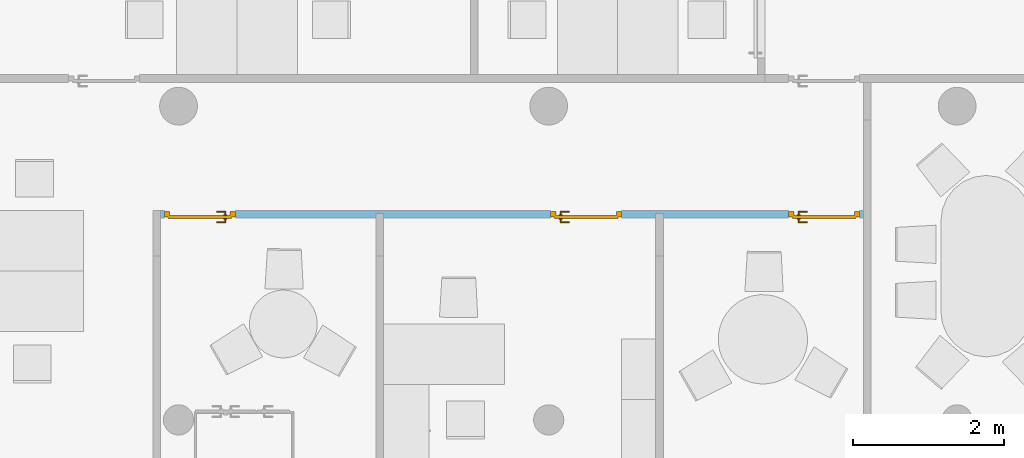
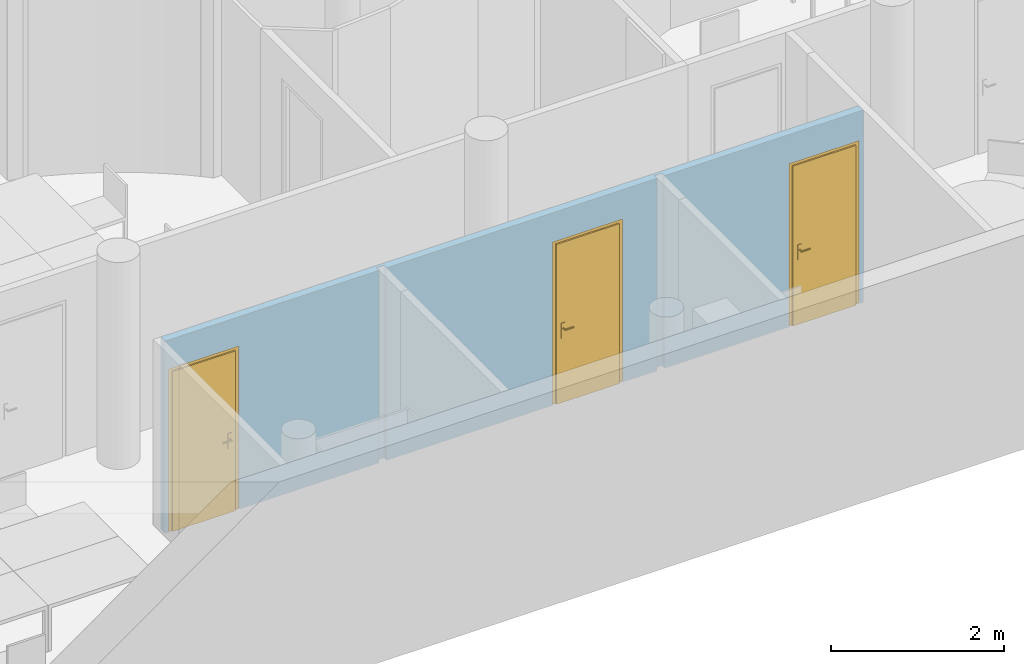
"""IFC4 building model written with IfcOpenShell, lengths in metres."""

from ifc_helpers import new_model, entity, si_unit, converted_unit, derived_unit, frame, origin, origin_with_axes, place, context, subcontext, project, spatial, polyline, outline, extrude, faceted_brep, source, transform, mapped, material, layer, layer_set, layer_usage, element, fill, save


model = new_model("IFC4")

# Units and contexts
model_context = context("Model", 3, precision=1e-05, world=origin())
body_context = subcontext(model_context, "Body", "Model", "MODEL_VIEW")
ifc_project = project(units=[si_unit("LENGTHUNIT", "METRE"), si_unit("AREAUNIT", "SQUARE_METRE"), si_unit("VOLUMEUNIT", "CUBIC_METRE"), si_unit("MASSUNIT", "GRAM", prefix="KILO"), converted_unit("PLANEANGLEUNIT", "DEGREE", entity("IfcPlaneAngleMeasure", 0.0174532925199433), si_unit("PLANEANGLEUNIT", "RADIAN"), dimensions=[0, 0, 0, 0, 0, 0, 0]), derived_unit("THERMALTRANSMITTANCEUNIT", [(si_unit("POWERUNIT", "WATT"), 1), (si_unit("THERMODYNAMICTEMPERATUREUNIT", "KELVIN"), -1), (si_unit("LENGTHUNIT", "METRE"), -2)]), derived_unit("VOLUMETRICFLOWRATEUNIT", [(si_unit("LENGTHUNIT", "METRE"), 3), (converted_unit("TIMEUNIT", "hour", entity("IfcTimeMeasure", 3600.0), si_unit("TIMEUNIT", "SECOND"), dimensions=[0, 0, 1, 0, 0, 0, 0]), -1), (si_unit("LENGTHUNIT", "METRE"), -1)])], contexts=[model_context])

# Building, storeys
building_placement = place(None, origin())
building = spatial("IfcBuilding", under=ifc_project, at=building_placement, Name="HABITATGE PLURIFAMILIAR", CompositionType="ELEMENT")
storey_1_placement = place(building_placement, frame((0.0, 0.0, 9.26)))
storey_1 = spatial("IfcBuildingStorey", under=building, at=storey_1_placement, Name="PLANTA SEGONA", CompositionType="ELEMENT", Elevation=9.26)
storey_2_placement = place(storey_1_placement, frame((0.0, 0.0, 6.25)))
storey_2 = spatial("IfcBuildingStorey", under=storey_1, at=storey_2_placement, Name="NOU", CompositionType="PARTIAL")

# Wall, openings, doors
ifc_material = material()
ifc_layer = layer(ifc_material, 0.1)
ifc_layer_set = layer_set([ifc_layer])
ifc_layer_usage = layer_usage(ifc_layer_set, "AXIS2", "POSITIVE", 0.0)
wall_placement = place(storey_2_placement, frame((414.897122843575, 16.4185729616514, -6.35), z_axis=(0.0, 0.0, 1.0), x_axis=(-1.0, 0.0, 0.0)))
wall = element("IfcWall", 1, at=wall_placement, inside=storey_2, material=ifc_layer_usage, Name="Mampara P2", context=body_context, shape_type="SweptSolid", body=[
    extrude(outline(polyline([(-9.29780990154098, -0.1), (0.0, -0.1), (0.0, 0.0), (-2.85, 0.0), (-2.85, -0.0599999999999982), (-2.95, -0.0599999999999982), (-2.95, 0.0), (-6.55000000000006, 0.0), (-6.55000000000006, -0.0600000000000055), (-6.65000000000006, -0.0600000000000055), (-6.65000000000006, 0.0), (-9.29780990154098, 0.0), (-9.29780990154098, -0.1)])), frame((9.29780990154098, 0.1, 0.0), z_axis=(0.0, 0.0, 1.0), x_axis=(1.0, 0.0, 0.0)), (0.0, 0.0, 1.0), 2.71),
])
opening_1_placement = place(wall_placement, frame((0.05, 0.0, 0.0), z_axis=(0.0, 1.0, 0.0), x_axis=(0.0, 0.0, 1.0)))
opening_1 = element("IfcOpeningElement", 2, at=opening_1_placement, cuts=wall, Name="Vano puerta", ObjectType="Opening", context=body_context, shape_type="SweptSolid", body=[
    extrude(outline(polyline([(2.3, 0.94), (2.3, 0.0), (0.0, 0.0), (0.0, 0.94), (2.3, 0.94)])), origin_with_axes(), (0.0, 0.0, 1.0), 0.0999999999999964),
])
opening_2_placement = place(wall_placement, frame((3.19780990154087, 0.0, 0.0), z_axis=(0.0, 1.0, 0.0), x_axis=(0.0, 0.0, 1.0)))
opening_2 = element("IfcOpeningElement", 3, at=opening_2_placement, cuts=wall, Name="Vano puerta", ObjectType="Opening", context=body_context, shape_type="SweptSolid", body=[
    extrude(outline(polyline([(2.3, 0.94), (2.3, 0.0), (0.0, 0.0), (0.0, 0.94), (2.3, 0.94)])), origin_with_axes(), (0.0, 0.0, 1.0), 0.0999999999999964),
])
opening_3_placement = place(wall_placement, frame((8.30780990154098, 0.0, 0.0), z_axis=(0.0, 1.0, 0.0), x_axis=(0.0, 0.0, 1.0)))
opening_3 = element("IfcOpeningElement", 4, at=opening_3_placement, cuts=wall, Name="Vano puerta", ObjectType="Opening", context=body_context, shape_type="SweptSolid", body=[
    extrude(outline(polyline([(2.3, 0.94), (2.3, 0.0), (0.0, 0.0), (0.0, 0.94), (2.3, 0.94)])), origin_with_axes(), (0.0, 0.0, 1.0), 0.1),
])
shared_shape_1 = source(origin_with_axes(), body_context, "Body", "Brep", [
    faceted_brep([(0.94, 0.0700000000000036, 2.3), (0.87, 0.0700000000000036, 2.3), (0.87, 0.0700000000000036, 0.0), (0.94, 0.0700000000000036, 0.0), (0.94, 0.0, 0.0), (0.87, 0.0, 0.0), (0.87, 0.0, 2.3), (0.94, 0.0, 2.3)], [[[0, 1, 2, 3]], [[4, 5, 6, 7]], [[3, 4, 7, 0]], [[2, 5, 4, 3]], [[1, 6, 5, 2]], [[0, 7, 6, 1]]], orient=[[False], [False], [False], [False], [False], [False]]),
    faceted_brep([(0.07, 0.0700000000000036, 2.3), (0.0, 0.0700000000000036, 2.3), (0.0, 0.0700000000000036, 0.0), (0.07, 0.0700000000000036, 0.0), (0.07, 0.0, 0.0), (0.0, 0.0, 0.0), (0.0, 0.0, 2.3), (0.07, 0.0, 2.3)], [[[0, 1, 2, 3]], [[4, 5, 6, 7]], [[3, 4, 7, 0]], [[2, 5, 4, 3]], [[1, 6, 5, 2]], [[0, 7, 6, 1]]], orient=[[False], [False], [False], [False], [False], [False]]),
    faceted_brep([(0.87, 0.0700000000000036, 2.3), (0.07, 0.0700000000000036, 2.3), (0.07, 0.0700000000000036, 2.23), (0.87, 0.0700000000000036, 2.23), (0.87, 0.0, 2.23), (0.07, 0.0, 2.23), (0.07, 0.0, 2.3), (0.87, 0.0, 2.3)], [[[0, 1, 2, 3]], [[4, 5, 6, 7]], [[3, 4, 7, 0]], [[2, 5, 4, 3]], [[1, 6, 5, 2]], [[0, 7, 6, 1]]], orient=[[False], [False], [False], [False], [False], [False]]),
    faceted_brep([(0.89, 0.0900000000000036, 2.25), (0.05, 0.0900000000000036, 2.25), (0.05, 0.0900000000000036, 0.0), (0.89, 0.0900000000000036, 0.0), (0.89, 0.0500000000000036, 0.0), (0.05, 0.0500000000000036, 0.0), (0.05, 0.0500000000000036, 2.25), (0.89, 0.0500000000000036, 2.25)], [[[0, 1, 2, 3]], [[4, 5, 6, 7]], [[3, 4, 7, 0]], [[2, 5, 4, 3]], [[1, 6, 5, 2]], [[0, 7, 6, 1]]], orient=[[False], [False], [False], [False], [False], [False]]),
    faceted_brep([(0.83, 0.0500000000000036, 1.125), (0.78, 0.0500000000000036, 1.125), (0.78, 0.0500000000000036, 0.91), (0.83, 0.0500000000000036, 0.91), (0.83, 0.0400000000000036, 0.91), (0.78, 0.0400000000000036, 0.91), (0.78, 0.0400000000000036, 1.125), (0.83, 0.0400000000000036, 1.125)], [[[0, 1, 2, 3]], [[4, 5, 6, 7]], [[3, 4, 7, 0]], [[2, 5, 4, 3]], [[1, 6, 5, 2]], [[0, 7, 6, 1]]], orient=[[False], [False], [False], [False], [False], [False]]),
    faceted_brep([(0.805, 0.0400000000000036, 1.06), (0.8, 0.0400000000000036, 1.05866025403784), (0.796339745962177, 0.0400000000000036, 1.055), (0.795, 0.0400000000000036, 1.05), (0.796339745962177, 0.0400000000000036, 1.045), (0.8, 0.0400000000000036, 1.04133974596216), (0.805, 0.0400000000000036, 1.04), (0.81, 0.0400000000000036, 1.04133974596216), (0.813660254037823, 0.0400000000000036, 1.045), (0.815, 0.0400000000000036, 1.05), (0.813660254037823, 0.0400000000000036, 1.055), (0.81, 0.0400000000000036, 1.05866025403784), (0.81, -0.00499999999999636, 1.05866025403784), (0.805, 0.0, 1.06), (0.813660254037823, -0.00866025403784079, 1.055), (0.815, -0.00999999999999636, 1.05), (0.813660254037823, -0.00866025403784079, 1.045), (0.81, -0.00499999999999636, 1.04133974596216), (0.805, 0.0, 1.04), (0.8, 0.00500000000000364, 1.04133974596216), (0.796339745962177, 0.00866025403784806, 1.045), (0.795, 0.0100000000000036, 1.05), (0.796339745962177, 0.00866025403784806, 1.055), (0.8, 0.00500000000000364, 1.05866025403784), (0.69, 0.0, 1.06), (0.69, -0.00499999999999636, 1.05866025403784), (0.69, -0.00866025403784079, 1.055), (0.69, -0.00999999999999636, 1.05), (0.69, -0.00866025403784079, 1.045), (0.69, -0.00499999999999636, 1.04133974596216), (0.69, 0.0, 1.04), (0.69, 0.00500000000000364, 1.04133974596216), (0.69, 0.00866025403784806, 1.045), (0.69, 0.0100000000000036, 1.05), (0.69, 0.00866025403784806, 1.055), (0.69, 0.00500000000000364, 1.05866025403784)], [[[0, 1, 2, 3, 4, 5, 6, 7, 8, 9, 10, 11]], [[0, 11, 12, 13]], [[11, 10, 14, 12]], [[10, 9, 15, 14]], [[9, 8, 16, 15]], [[8, 7, 17, 16]], [[7, 6, 18, 17]], [[6, 5, 19, 18]], [[5, 4, 20, 19]], [[4, 3, 21, 20]], [[3, 2, 22, 21]], [[2, 1, 23, 22]], [[1, 0, 13, 23]], [[24, 25, 26, 27, 28, 29, 30, 31, 32, 33, 34, 35]], [[13, 12, 25, 24]], [[12, 14, 26, 25]], [[14, 15, 27, 26]], [[15, 16, 28, 27]], [[16, 17, 29, 28]], [[17, 18, 30, 29]], [[18, 19, 31, 30]], [[19, 20, 32, 31]], [[20, 21, 33, 32]], [[21, 22, 34, 33]], [[22, 23, 35, 34]], [[23, 13, 24, 35]]], orient=[[False], [False], [False], [False], [False], [False], [False], [False], [False], [False], [False], [False], [False], [False], [False], [False], [False], [False], [False], [False], [False], [False], [False], [False], [False], [False]]),
    faceted_brep([(0.83, 0.0900000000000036, 1.125), (0.83, 0.0900000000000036, 0.91), (0.78, 0.0900000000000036, 0.91), (0.78, 0.0900000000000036, 1.125), (0.83, 0.100000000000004, 0.91), (0.83, 0.100000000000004, 1.125), (0.78, 0.100000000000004, 1.125), (0.78, 0.100000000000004, 0.91)], [[[0, 1, 2, 3]], [[4, 5, 6, 7]], [[1, 0, 5, 4]], [[2, 1, 4, 7]], [[3, 2, 7, 6]], [[0, 3, 6, 5]]], orient=[[False], [False], [False], [False], [False], [False]]),
    faceted_brep([(0.805, 0.100000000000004, 1.06), (0.81, 0.100000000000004, 1.05866025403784), (0.813660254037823, 0.100000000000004, 1.055), (0.815, 0.100000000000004, 1.05), (0.813660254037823, 0.100000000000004, 1.045), (0.81, 0.100000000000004, 1.04133974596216), (0.805, 0.100000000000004, 1.04), (0.8, 0.100000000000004, 1.04133974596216), (0.796339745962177, 0.100000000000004, 1.045), (0.795, 0.100000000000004, 1.05), (0.796339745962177, 0.100000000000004, 1.055), (0.8, 0.100000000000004, 1.05866025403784), (0.805, 0.140000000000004, 1.06), (0.81, 0.145000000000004, 1.05866025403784), (0.813660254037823, 0.148660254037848, 1.055), (0.815, 0.150000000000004, 1.05), (0.813660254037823, 0.148660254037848, 1.045), (0.81, 0.145000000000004, 1.04133974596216), (0.805, 0.140000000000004, 1.04), (0.8, 0.135000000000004, 1.04133974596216), (0.796339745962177, 0.131339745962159, 1.045), (0.795, 0.130000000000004, 1.05), (0.796339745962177, 0.131339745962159, 1.055), (0.8, 0.135000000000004, 1.05866025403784), (0.69, 0.140000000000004, 1.06), (0.69, 0.135000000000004, 1.05866025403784), (0.69, 0.131339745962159, 1.055), (0.69, 0.130000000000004, 1.05), (0.69, 0.131339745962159, 1.045), (0.69, 0.135000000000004, 1.04133974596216), (0.69, 0.140000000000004, 1.04), (0.69, 0.145000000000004, 1.04133974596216), (0.69, 0.148660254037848, 1.045), (0.69, 0.150000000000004, 1.05), (0.69, 0.148660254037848, 1.055), (0.69, 0.145000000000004, 1.05866025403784)], [[[0, 1, 2, 3, 4, 5, 6, 7, 8, 9, 10, 11]], [[0, 12, 13, 1]], [[1, 13, 14, 2]], [[2, 14, 15, 3]], [[3, 15, 16, 4]], [[4, 16, 17, 5]], [[5, 17, 18, 6]], [[6, 18, 19, 7]], [[7, 19, 20, 8]], [[8, 20, 21, 9]], [[9, 21, 22, 10]], [[10, 22, 23, 11]], [[11, 23, 12, 0]], [[24, 25, 26, 27, 28, 29, 30, 31, 32, 33, 34, 35]], [[12, 24, 35, 13]], [[13, 35, 34, 14]], [[14, 34, 33, 15]], [[15, 33, 32, 16]], [[16, 32, 31, 17]], [[17, 31, 30, 18]], [[18, 30, 29, 19]], [[19, 29, 28, 20]], [[20, 28, 27, 21]], [[21, 27, 26, 22]], [[22, 26, 25, 23]], [[23, 25, 24, 12]]], orient=[[False], [False], [False], [False], [False], [False], [False], [False], [False], [False], [False], [False], [False], [False], [False], [False], [False], [False], [False], [False], [False], [False], [False], [False], [False], [False]]),
])
door_1_placement = place(opening_1_placement, frame((0.0, 0.0, 0.0149999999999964), z_axis=(1.0, 0.0, 0.0), x_axis=(0.0, 1.0, 0.0)))
door_1 = element("IfcDoor", 5, at=door_1_placement, inside=storey_2, Name="Porta P2", OperationType="USERDEFINED", OverallHeight=2.3, OverallWidth=0.94, PredefinedType="DOOR", context=body_context, shape_type="MappedRepresentation", body=[
    mapped(shared_shape_1, transform((0.0, 0.0, 0.0), x_axis=(1.0, 0.0, 0.0), y_axis=(0.0, 1.0, 0.0), z_axis=(0.0, 0.0, 1.0), scale=1.0)),
])
fill(opening_1, door_1)
shared_shape_2 = source(origin_with_axes(), body_context, "Body", "Brep", [
    faceted_brep([(0.94, 0.0700000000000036, 2.3), (0.87, 0.0700000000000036, 2.3), (0.87, 0.0700000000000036, 0.0), (0.94, 0.0700000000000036, 0.0), (0.94, 0.0, 0.0), (0.87, 0.0, 0.0), (0.87, 0.0, 2.3), (0.94, 0.0, 2.3)], [[[0, 1, 2, 3]], [[4, 5, 6, 7]], [[3, 4, 7, 0]], [[2, 5, 4, 3]], [[1, 6, 5, 2]], [[0, 7, 6, 1]]], orient=[[False], [False], [False], [False], [False], [False]]),
    faceted_brep([(0.07, 0.0700000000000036, 2.3), (0.0, 0.0700000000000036, 2.3), (0.0, 0.0700000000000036, 0.0), (0.07, 0.0700000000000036, 0.0), (0.07, 0.0, 0.0), (0.0, 0.0, 0.0), (0.0, 0.0, 2.3), (0.07, 0.0, 2.3)], [[[0, 1, 2, 3]], [[4, 5, 6, 7]], [[3, 4, 7, 0]], [[2, 5, 4, 3]], [[1, 6, 5, 2]], [[0, 7, 6, 1]]], orient=[[False], [False], [False], [False], [False], [False]]),
    faceted_brep([(0.87, 0.0700000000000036, 2.3), (0.07, 0.0700000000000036, 2.3), (0.07, 0.0700000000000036, 2.23), (0.87, 0.0700000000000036, 2.23), (0.87, 0.0, 2.23), (0.07, 0.0, 2.23), (0.07, 0.0, 2.3), (0.87, 0.0, 2.3)], [[[0, 1, 2, 3]], [[4, 5, 6, 7]], [[3, 4, 7, 0]], [[2, 5, 4, 3]], [[1, 6, 5, 2]], [[0, 7, 6, 1]]], orient=[[False], [False], [False], [False], [False], [False]]),
    faceted_brep([(0.89, 0.0900000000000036, 2.25), (0.05, 0.0900000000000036, 2.25), (0.05, 0.0900000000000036, 0.0), (0.89, 0.0900000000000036, 0.0), (0.89, 0.0500000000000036, 0.0), (0.05, 0.0500000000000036, 0.0), (0.05, 0.0500000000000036, 2.25), (0.89, 0.0500000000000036, 2.25)], [[[0, 1, 2, 3]], [[4, 5, 6, 7]], [[3, 4, 7, 0]], [[2, 5, 4, 3]], [[1, 6, 5, 2]], [[0, 7, 6, 1]]], orient=[[False], [False], [False], [False], [False], [False]]),
    faceted_brep([(0.83, 0.0500000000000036, 1.125), (0.78, 0.0500000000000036, 1.125), (0.78, 0.0500000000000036, 0.91), (0.83, 0.0500000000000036, 0.91), (0.83, 0.0400000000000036, 0.91), (0.78, 0.0400000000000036, 0.91), (0.78, 0.0400000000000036, 1.125), (0.83, 0.0400000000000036, 1.125)], [[[0, 1, 2, 3]], [[4, 5, 6, 7]], [[3, 4, 7, 0]], [[2, 5, 4, 3]], [[1, 6, 5, 2]], [[0, 7, 6, 1]]], orient=[[False], [False], [False], [False], [False], [False]]),
    faceted_brep([(0.805, 0.0400000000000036, 1.06), (0.8, 0.0400000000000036, 1.05866025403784), (0.796339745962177, 0.0400000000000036, 1.055), (0.795, 0.0400000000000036, 1.05), (0.796339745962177, 0.0400000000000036, 1.045), (0.8, 0.0400000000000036, 1.04133974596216), (0.805, 0.0400000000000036, 1.04), (0.81, 0.0400000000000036, 1.04133974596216), (0.813660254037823, 0.0400000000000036, 1.045), (0.815, 0.0400000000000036, 1.05), (0.813660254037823, 0.0400000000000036, 1.055), (0.81, 0.0400000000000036, 1.05866025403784), (0.81, -0.00499999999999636, 1.05866025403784), (0.805, 0.0, 1.06), (0.813660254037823, -0.00866025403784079, 1.055), (0.815, -0.00999999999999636, 1.05), (0.813660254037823, -0.00866025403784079, 1.045), (0.81, -0.00499999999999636, 1.04133974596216), (0.805, 0.0, 1.04), (0.8, 0.00500000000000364, 1.04133974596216), (0.796339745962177, 0.00866025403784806, 1.045), (0.795, 0.0100000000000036, 1.05), (0.796339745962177, 0.00866025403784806, 1.055), (0.8, 0.00500000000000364, 1.05866025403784), (0.69, 0.0, 1.06), (0.69, -0.00499999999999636, 1.05866025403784), (0.69, -0.00866025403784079, 1.055), (0.69, -0.00999999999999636, 1.05), (0.69, -0.00866025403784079, 1.045), (0.69, -0.00499999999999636, 1.04133974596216), (0.69, 0.0, 1.04), (0.69, 0.00500000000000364, 1.04133974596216), (0.69, 0.00866025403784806, 1.045), (0.69, 0.0100000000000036, 1.05), (0.69, 0.00866025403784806, 1.055), (0.69, 0.00500000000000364, 1.05866025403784)], [[[0, 1, 2, 3, 4, 5, 6, 7, 8, 9, 10, 11]], [[0, 11, 12, 13]], [[11, 10, 14, 12]], [[10, 9, 15, 14]], [[9, 8, 16, 15]], [[8, 7, 17, 16]], [[7, 6, 18, 17]], [[6, 5, 19, 18]], [[5, 4, 20, 19]], [[4, 3, 21, 20]], [[3, 2, 22, 21]], [[2, 1, 23, 22]], [[1, 0, 13, 23]], [[24, 25, 26, 27, 28, 29, 30, 31, 32, 33, 34, 35]], [[13, 12, 25, 24]], [[12, 14, 26, 25]], [[14, 15, 27, 26]], [[15, 16, 28, 27]], [[16, 17, 29, 28]], [[17, 18, 30, 29]], [[18, 19, 31, 30]], [[19, 20, 32, 31]], [[20, 21, 33, 32]], [[21, 22, 34, 33]], [[22, 23, 35, 34]], [[23, 13, 24, 35]]], orient=[[False], [False], [False], [False], [False], [False], [False], [False], [False], [False], [False], [False], [False], [False], [False], [False], [False], [False], [False], [False], [False], [False], [False], [False], [False], [False]]),
    faceted_brep([(0.83, 0.0900000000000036, 1.125), (0.83, 0.0900000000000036, 0.91), (0.78, 0.0900000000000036, 0.91), (0.78, 0.0900000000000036, 1.125), (0.83, 0.100000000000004, 0.91), (0.83, 0.100000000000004, 1.125), (0.78, 0.100000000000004, 1.125), (0.78, 0.100000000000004, 0.91)], [[[0, 1, 2, 3]], [[4, 5, 6, 7]], [[1, 0, 5, 4]], [[2, 1, 4, 7]], [[3, 2, 7, 6]], [[0, 3, 6, 5]]], orient=[[False], [False], [False], [False], [False], [False]]),
    faceted_brep([(0.805, 0.100000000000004, 1.06), (0.81, 0.100000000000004, 1.05866025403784), (0.813660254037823, 0.100000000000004, 1.055), (0.815, 0.100000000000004, 1.05), (0.813660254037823, 0.100000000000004, 1.045), (0.81, 0.100000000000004, 1.04133974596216), (0.805, 0.100000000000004, 1.04), (0.8, 0.100000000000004, 1.04133974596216), (0.796339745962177, 0.100000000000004, 1.045), (0.795, 0.100000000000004, 1.05), (0.796339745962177, 0.100000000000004, 1.055), (0.8, 0.100000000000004, 1.05866025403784), (0.805, 0.140000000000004, 1.06), (0.81, 0.145000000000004, 1.05866025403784), (0.813660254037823, 0.148660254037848, 1.055), (0.815, 0.150000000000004, 1.05), (0.813660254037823, 0.148660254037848, 1.045), (0.81, 0.145000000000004, 1.04133974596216), (0.805, 0.140000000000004, 1.04), (0.8, 0.135000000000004, 1.04133974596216), (0.796339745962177, 0.131339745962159, 1.045), (0.795, 0.130000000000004, 1.05), (0.796339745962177, 0.131339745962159, 1.055), (0.8, 0.135000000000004, 1.05866025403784), (0.69, 0.140000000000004, 1.06), (0.69, 0.135000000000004, 1.05866025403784), (0.69, 0.131339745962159, 1.055), (0.69, 0.130000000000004, 1.05), (0.69, 0.131339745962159, 1.045), (0.69, 0.135000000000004, 1.04133974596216), (0.69, 0.140000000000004, 1.04), (0.69, 0.145000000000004, 1.04133974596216), (0.69, 0.148660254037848, 1.045), (0.69, 0.150000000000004, 1.05), (0.69, 0.148660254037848, 1.055), (0.69, 0.145000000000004, 1.05866025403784)], [[[0, 1, 2, 3, 4, 5, 6, 7, 8, 9, 10, 11]], [[0, 12, 13, 1]], [[1, 13, 14, 2]], [[2, 14, 15, 3]], [[3, 15, 16, 4]], [[4, 16, 17, 5]], [[5, 17, 18, 6]], [[6, 18, 19, 7]], [[7, 19, 20, 8]], [[8, 20, 21, 9]], [[9, 21, 22, 10]], [[10, 22, 23, 11]], [[11, 23, 12, 0]], [[24, 25, 26, 27, 28, 29, 30, 31, 32, 33, 34, 35]], [[12, 24, 35, 13]], [[13, 35, 34, 14]], [[14, 34, 33, 15]], [[15, 33, 32, 16]], [[16, 32, 31, 17]], [[17, 31, 30, 18]], [[18, 30, 29, 19]], [[19, 29, 28, 20]], [[20, 28, 27, 21]], [[21, 27, 26, 22]], [[22, 26, 25, 23]], [[23, 25, 24, 12]]], orient=[[False], [False], [False], [False], [False], [False], [False], [False], [False], [False], [False], [False], [False], [False], [False], [False], [False], [False], [False], [False], [False], [False], [False], [False], [False], [False]]),
])
door_2_placement = place(opening_2_placement, frame((0.0, 0.0, 0.0149999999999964), z_axis=(1.0, 0.0, 0.0), x_axis=(0.0, 1.0, 0.0)))
door_2 = element("IfcDoor", 6, at=door_2_placement, inside=storey_2, Name="Porta P2", OperationType="USERDEFINED", OverallHeight=2.3, OverallWidth=0.94, PredefinedType="DOOR", context=body_context, shape_type="MappedRepresentation", body=[
    mapped(shared_shape_2, transform((0.0, 0.0, 0.0), x_axis=(1.0, 0.0, 0.0), y_axis=(0.0, 1.0, 0.0), z_axis=(0.0, 0.0, 1.0), scale=1.0)),
])
fill(opening_2, door_2)
shared_shape_3 = source(origin_with_axes(), body_context, "Body", "Brep", [
    faceted_brep([(0.0, 0.07, 2.3), (0.0, 0.07, 0.0), (0.07, 0.07, 0.0), (0.07, 0.07, 2.3), (0.0, 0.0, 0.0), (0.0, 0.0, 2.3), (0.07, 0.0, 2.3), (0.07, 0.0, 0.0)], [[[0, 1, 2, 3]], [[4, 5, 6, 7]], [[1, 0, 5, 4]], [[2, 1, 4, 7]], [[3, 2, 7, 6]], [[0, 3, 6, 5]]], orient=[[False], [False], [False], [False], [False], [False]]),
    faceted_brep([(0.87, 0.07, 2.3), (0.87, 0.07, 0.0), (0.94, 0.07, 0.0), (0.94, 0.07, 2.3), (0.87, 0.0, 0.0), (0.87, 0.0, 2.3), (0.94, 0.0, 2.3), (0.94, 0.0, 0.0)], [[[0, 1, 2, 3]], [[4, 5, 6, 7]], [[1, 0, 5, 4]], [[2, 1, 4, 7]], [[3, 2, 7, 6]], [[0, 3, 6, 5]]], orient=[[False], [False], [False], [False], [False], [False]]),
    faceted_brep([(0.07, 0.07, 2.3), (0.07, 0.07, 2.23), (0.87, 0.07, 2.23), (0.87, 0.07, 2.3), (0.07, 0.0, 2.23), (0.07, 0.0, 2.3), (0.87, 0.0, 2.3), (0.87, 0.0, 2.23)], [[[0, 1, 2, 3]], [[4, 5, 6, 7]], [[1, 0, 5, 4]], [[2, 1, 4, 7]], [[3, 2, 7, 6]], [[0, 3, 6, 5]]], orient=[[False], [False], [False], [False], [False], [False]]),
    faceted_brep([(0.05, 0.09, 2.25), (0.05, 0.09, 0.0), (0.89, 0.09, 0.0), (0.89, 0.09, 2.25), (0.05, 0.05, 0.0), (0.05, 0.05, 2.25), (0.89, 0.05, 2.25), (0.89, 0.05, 0.0)], [[[0, 1, 2, 3]], [[4, 5, 6, 7]], [[1, 0, 5, 4]], [[2, 1, 4, 7]], [[3, 2, 7, 6]], [[0, 3, 6, 5]]], orient=[[False], [False], [False], [False], [False], [False]]),
    faceted_brep([(0.11, 0.05, 1.125), (0.11, 0.05, 0.91), (0.16, 0.05, 0.91), (0.16, 0.05, 1.125), (0.11, 0.04, 0.91), (0.11, 0.04, 1.125), (0.16, 0.04, 1.125), (0.16, 0.04, 0.91)], [[[0, 1, 2, 3]], [[4, 5, 6, 7]], [[1, 0, 5, 4]], [[2, 1, 4, 7]], [[3, 2, 7, 6]], [[0, 3, 6, 5]]], orient=[[False], [False], [False], [False], [False], [False]]),
    faceted_brep([(0.135, 0.04, 1.06), (0.13, 0.04, 1.05866025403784), (0.126339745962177, 0.04, 1.055), (0.125, 0.04, 1.05), (0.126339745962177, 0.04, 1.045), (0.13, 0.04, 1.04133974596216), (0.135, 0.04, 1.04), (0.14, 0.04, 1.04133974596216), (0.143660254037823, 0.04, 1.045), (0.145, 0.04, 1.05), (0.143660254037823, 0.04, 1.055), (0.14, 0.04, 1.05866025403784), (0.135, 0.0, 1.06), (0.13, -0.005, 1.05866025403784), (0.126339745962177, -0.00866025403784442, 1.055), (0.125, -0.01, 1.05), (0.126339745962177, -0.00866025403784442, 1.045), (0.13, -0.005, 1.04133974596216), (0.135, 0.0, 1.04), (0.14, 0.005, 1.04133974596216), (0.143660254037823, 0.00866025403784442, 1.045), (0.145, 0.01, 1.05), (0.143660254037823, 0.00866025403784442, 1.055), (0.14, 0.005, 1.05866025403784), (0.25, 0.0, 1.06), (0.25, 0.005, 1.05866025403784), (0.25, 0.00866025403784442, 1.055), (0.25, 0.01, 1.05), (0.25, 0.00866025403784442, 1.045), (0.25, 0.005, 1.04133974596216), (0.25, 0.0, 1.04), (0.25, -0.005, 1.04133974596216), (0.25, -0.00866025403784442, 1.045), (0.25, -0.01, 1.05), (0.25, -0.00866025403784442, 1.055), (0.25, -0.005, 1.05866025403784)], [[[0, 1, 2, 3, 4, 5, 6, 7, 8, 9, 10, 11]], [[0, 12, 13, 1]], [[1, 13, 14, 2]], [[2, 14, 15, 3]], [[3, 15, 16, 4]], [[4, 16, 17, 5]], [[5, 17, 18, 6]], [[6, 18, 19, 7]], [[7, 19, 20, 8]], [[8, 20, 21, 9]], [[9, 21, 22, 10]], [[10, 22, 23, 11]], [[11, 23, 12, 0]], [[24, 25, 26, 27, 28, 29, 30, 31, 32, 33, 34, 35]], [[12, 24, 35, 13]], [[13, 35, 34, 14]], [[14, 34, 33, 15]], [[15, 33, 32, 16]], [[16, 32, 31, 17]], [[17, 31, 30, 18]], [[18, 30, 29, 19]], [[19, 29, 28, 20]], [[20, 28, 27, 21]], [[21, 27, 26, 22]], [[22, 26, 25, 23]], [[23, 25, 24, 12]]], orient=[[False], [False], [False], [False], [False], [False], [False], [False], [False], [False], [False], [False], [False], [False], [False], [False], [False], [False], [False], [False], [False], [False], [False], [False], [False], [False]]),
    faceted_brep([(0.11, 0.09, 1.125), (0.16, 0.09, 1.125), (0.16, 0.09, 0.91), (0.11, 0.09, 0.91), (0.11, 0.1, 0.91), (0.16, 0.1, 0.91), (0.16, 0.1, 1.125), (0.11, 0.1, 1.125)], [[[0, 1, 2, 3]], [[4, 5, 6, 7]], [[3, 4, 7, 0]], [[2, 5, 4, 3]], [[1, 6, 5, 2]], [[0, 7, 6, 1]]], orient=[[False], [False], [False], [False], [False], [False]]),
    faceted_brep([(0.135, 0.1, 1.06), (0.14, 0.1, 1.05866025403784), (0.143660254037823, 0.1, 1.055), (0.145, 0.1, 1.05), (0.143660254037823, 0.1, 1.045), (0.14, 0.1, 1.04133974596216), (0.135, 0.1, 1.04), (0.13, 0.1, 1.04133974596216), (0.126339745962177, 0.1, 1.045), (0.125, 0.1, 1.05), (0.126339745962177, 0.1, 1.055), (0.13, 0.1, 1.05866025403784), (0.13, 0.145, 1.05866025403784), (0.135, 0.14, 1.06), (0.126339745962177, 0.148660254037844, 1.055), (0.125, 0.15, 1.05), (0.126339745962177, 0.148660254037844, 1.045), (0.13, 0.145, 1.04133974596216), (0.135, 0.14, 1.04), (0.14, 0.135, 1.04133974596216), (0.143660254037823, 0.131339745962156, 1.045), (0.145, 0.13, 1.05), (0.143660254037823, 0.131339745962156, 1.055), (0.14, 0.135, 1.05866025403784), (0.25, 0.14, 1.06), (0.25, 0.145, 1.05866025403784), (0.25, 0.148660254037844, 1.055), (0.25, 0.15, 1.05), (0.25, 0.148660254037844, 1.045), (0.25, 0.145, 1.04133974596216), (0.25, 0.14, 1.04), (0.25, 0.135, 1.04133974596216), (0.25, 0.131339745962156, 1.045), (0.25, 0.13, 1.05), (0.25, 0.131339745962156, 1.055), (0.25, 0.135, 1.05866025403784)], [[[0, 1, 2, 3, 4, 5, 6, 7, 8, 9, 10, 11]], [[0, 11, 12, 13]], [[11, 10, 14, 12]], [[10, 9, 15, 14]], [[9, 8, 16, 15]], [[8, 7, 17, 16]], [[7, 6, 18, 17]], [[6, 5, 19, 18]], [[5, 4, 20, 19]], [[4, 3, 21, 20]], [[3, 2, 22, 21]], [[2, 1, 23, 22]], [[1, 0, 13, 23]], [[24, 25, 26, 27, 28, 29, 30, 31, 32, 33, 34, 35]], [[13, 12, 25, 24]], [[12, 14, 26, 25]], [[14, 15, 27, 26]], [[15, 16, 28, 27]], [[16, 17, 29, 28]], [[17, 18, 30, 29]], [[18, 19, 31, 30]], [[19, 20, 32, 31]], [[20, 21, 33, 32]], [[21, 22, 34, 33]], [[22, 23, 35, 34]], [[23, 13, 24, 35]]], orient=[[False], [False], [False], [False], [False], [False], [False], [False], [False], [False], [False], [False], [False], [False], [False], [False], [False], [False], [False], [False], [False], [False], [False], [False], [False], [False]]),
])
door_3_placement = place(opening_3_placement, frame((0.0, 0.0, 0.015), z_axis=(1.0, 0.0, 0.0), x_axis=(0.0, 1.0, 0.0)))
door_3 = element("IfcDoor", 7, at=door_3_placement, inside=storey_2, Name="Porta P2", OperationType="USERDEFINED", OverallHeight=2.3, OverallWidth=0.94, PredefinedType="DOOR", context=body_context, shape_type="MappedRepresentation", body=[
    mapped(shared_shape_3, transform((0.0, 0.0, 0.0), x_axis=(1.0, 0.0, 0.0), y_axis=(0.0, 1.0, 0.0), z_axis=(0.0, 0.0, 1.0), scale=1.0)),
])
fill(opening_3, door_3)

save(model, "model.ifc")
